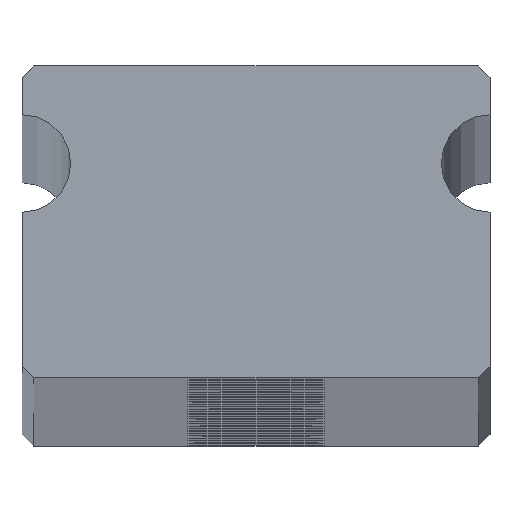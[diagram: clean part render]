
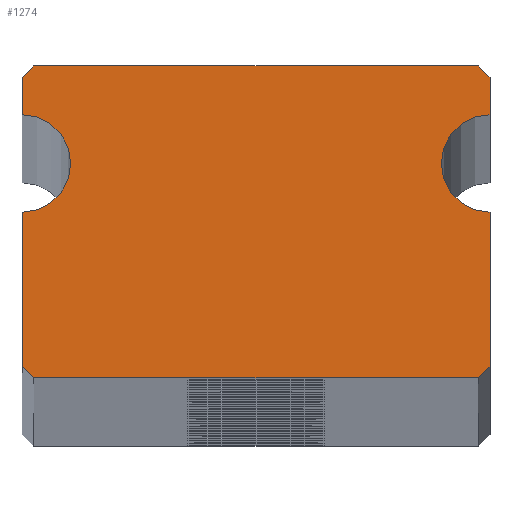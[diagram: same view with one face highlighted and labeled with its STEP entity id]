
A CAD part, top view. The second image highlights one B-rep face of the part: STEP entity #1274.
In plain terms, the highlighted planar face has unit normal (0, 0, 1).
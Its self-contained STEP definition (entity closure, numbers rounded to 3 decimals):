
#15 = EDGE_CURVE ( 'NONE', #1035, #3979, #4612, .T. ) ;
#46 = CARTESIAN_POINT ( 'NONE',  ( -5.139, -3.533, 1000. ) ) ;
#238 = ORIENTED_EDGE ( 'NONE', *, *, #2287, .T. ) ;
#333 = VERTEX_POINT ( 'NONE', #5940 ) ;
#412 = EDGE_CURVE ( 'NONE', #333, #6000, #3584, .T. ) ;
#439 = AXIS2_PLACEMENT_3D ( 'NONE', #4798, #4658, #5661 ) ;
#495 = CIRCLE ( 'NONE', #4250, 1.25 ) ;
#523 = CARTESIAN_POINT ( 'NONE',  ( 6.261, 4.467, 1000. ) ) ;
#568 = VERTEX_POINT ( 'NONE', #4184 ) ;
#609 = LINE ( 'NONE', #46, #5651 ) ;
#644 = ORIENTED_EDGE ( 'NONE', *, *, #3875, .T. ) ;
#815 = CARTESIAN_POINT ( 'NONE',  ( 6.561, -3.233, 1000. ) ) ;
#870 = EDGE_CURVE ( 'NONE', #6000, #1431, #4491, .T. ) ;
#884 = LINE ( 'NONE', #4452, #5227 ) ;
#1025 = CARTESIAN_POINT ( 'NONE',  ( 6.561, 3.217, 1000. ) ) ;
#1035 = VERTEX_POINT ( 'NONE', #3993 ) ;
#1072 = CARTESIAN_POINT ( 'NONE',  ( -5.439, 4.167, 1000. ) ) ;
#1086 = AXIS2_PLACEMENT_3D ( 'NONE', #3281, #4320, #6401 ) ;
#1089 = PLANE ( 'NONE',  #6229 ) ;
#1117 = VECTOR ( 'NONE', #3233, 1000. ) ;
#1246 = EDGE_CURVE ( 'NONE', #2837, #568, #5380, .T. ) ;
#1268 = EDGE_LOOP ( 'NONE', ( #4797, #6572, #238, #3079, #5814, #1287, #6554, #5888, #644, #2930, #4905, #3504, #4918 ) ) ;
#1274 = ADVANCED_FACE ( 'NONE', ( #3649 ), #1089, .T. ) ;
#1277 = VECTOR ( 'NONE', #6028, 1000. ) ;
#1287 = ORIENTED_EDGE ( 'NONE', *, *, #4470, .T. ) ;
#1346 = VECTOR ( 'NONE', #5767, 1000. ) ;
#1399 = EDGE_CURVE ( 'NONE', #3979, #5251, #3988, .T. ) ;
#1431 = VERTEX_POINT ( 'NONE', #2771 ) ;
#1459 = DIRECTION ( 'NONE',  ( -0.707, -0.707, 0. ) ) ;
#1472 = VERTEX_POINT ( 'NONE', #5184 ) ;
#1512 = DIRECTION ( 'NONE',  ( -0.707, 0.707, 0. ) ) ;
#1635 = CARTESIAN_POINT ( 'NONE',  ( -5.439, -3.233, 1000. ) ) ;
#1724 = VECTOR ( 'NONE', #1512, 1000. ) ;
#1813 = EDGE_CURVE ( 'NONE', #1431, #1035, #6017, .T. ) ;
#1836 = CARTESIAN_POINT ( 'NONE',  ( -5.439, 0.717, 1000. ) ) ;
#2141 = LINE ( 'NONE', #2608, #3102 ) ;
#2287 = EDGE_CURVE ( 'NONE', #3464, #5268, #5270, .T. ) ;
#2419 = CARTESIAN_POINT ( 'NONE',  ( 6.561, 1.967, 1000. ) ) ;
#2474 = EDGE_CURVE ( 'NONE', #568, #2763, #495, .T. ) ;
#2608 = CARTESIAN_POINT ( 'NONE',  ( 6.561, 3.217, 1000. ) ) ;
#2636 = DIRECTION ( 'NONE',  ( 1., 0., 0. ) ) ;
#2643 = DIRECTION ( 'NONE',  ( 0., 0., 1. ) ) ;
#2727 = LINE ( 'NONE', #3807, #1117 ) ;
#2763 = VERTEX_POINT ( 'NONE', #1025 ) ;
#2771 = CARTESIAN_POINT ( 'NONE',  ( -5.139, 4.467, 1000. ) ) ;
#2837 = VERTEX_POINT ( 'NONE', #5920 ) ;
#2877 = CARTESIAN_POINT ( 'NONE',  ( -5.439, 3.217, 1000. ) ) ;
#2930 = ORIENTED_EDGE ( 'NONE', *, *, #412, .T. ) ;
#2943 = DIRECTION ( 'NONE',  ( 0., -1., 0. ) ) ;
#3079 = ORIENTED_EDGE ( 'NONE', *, *, #4301, .T. ) ;
#3088 = CARTESIAN_POINT ( 'NONE',  ( 6.561, 4.167, 1000. ) ) ;
#3102 = VECTOR ( 'NONE', #3675, 1000. ) ;
#3233 = DIRECTION ( 'NONE',  ( 0.707, 0.707, 0. ) ) ;
#3281 = CARTESIAN_POINT ( 'NONE',  ( -5.439, 1.967, 1000. ) ) ;
#3306 = LINE ( 'NONE', #815, #3817 ) ;
#3464 = VERTEX_POINT ( 'NONE', #1635 ) ;
#3504 = ORIENTED_EDGE ( 'NONE', *, *, #1813, .T. ) ;
#3584 = LINE ( 'NONE', #3088, #1724 ) ;
#3649 = FACE_OUTER_BOUND ( 'NONE', #1268, .T. ) ;
#3675 = DIRECTION ( 'NONE',  ( 0., 1., 0. ) ) ;
#3807 = CARTESIAN_POINT ( 'NONE',  ( 6.261, -3.533, 1000. ) ) ;
#3817 = VECTOR ( 'NONE', #3849, 1000. ) ;
#3849 = DIRECTION ( 'NONE',  ( 0., 1., 0. ) ) ;
#3875 = EDGE_CURVE ( 'NONE', #2763, #333, #2141, .T. ) ;
#3927 = DIRECTION ( 'NONE',  ( 0., 0., -1. ) ) ;
#3979 = VERTEX_POINT ( 'NONE', #2877 ) ;
#3988 = CIRCLE ( 'NONE', #1086, 1.25 ) ;
#3993 = CARTESIAN_POINT ( 'NONE',  ( -5.439, 4.167, 1000. ) ) ;
#4184 = CARTESIAN_POINT ( 'NONE',  ( 5.311, 1.967, 1000. ) ) ;
#4195 = EDGE_CURVE ( 'NONE', #5251, #3464, #884, .T. ) ;
#4250 = AXIS2_PLACEMENT_3D ( 'NONE', #2419, #3927, #5968 ) ;
#4301 = EDGE_CURVE ( 'NONE', #5268, #5000, #609, .T. ) ;
#4320 = DIRECTION ( 'NONE',  ( 0., 0., -1. ) ) ;
#4398 = CARTESIAN_POINT ( 'NONE',  ( 6.261, 4.467, 1000. ) ) ;
#4415 = CARTESIAN_POINT ( 'NONE',  ( -5.139, -3.533, 1000. ) ) ;
#4452 = CARTESIAN_POINT ( 'NONE',  ( -5.439, 0.717, 1000. ) ) ;
#4470 = EDGE_CURVE ( 'NONE', #1472, #2837, #3306, .T. ) ;
#4491 = LINE ( 'NONE', #523, #1277 ) ;
#4586 = VECTOR ( 'NONE', #1459, 1000. ) ;
#4612 = LINE ( 'NONE', #1072, #6209 ) ;
#4658 = DIRECTION ( 'NONE',  ( 0., 0., -1. ) ) ;
#4690 = DIRECTION ( 'NONE',  ( 1., 0., 0. ) ) ;
#4696 = CARTESIAN_POINT ( 'NONE',  ( -5.439, -3.233, 1000. ) ) ;
#4797 = ORIENTED_EDGE ( 'NONE', *, *, #1399, .T. ) ;
#4798 = CARTESIAN_POINT ( 'NONE',  ( 6.561, 1.967, 1000. ) ) ;
#4905 = ORIENTED_EDGE ( 'NONE', *, *, #870, .T. ) ;
#4918 = ORIENTED_EDGE ( 'NONE', *, *, #15, .T. ) ;
#5000 = VERTEX_POINT ( 'NONE', #5010 ) ;
#5010 = CARTESIAN_POINT ( 'NONE',  ( 6.261, -3.533, 1000. ) ) ;
#5184 = CARTESIAN_POINT ( 'NONE',  ( 6.561, -3.233, 1000. ) ) ;
#5192 = CARTESIAN_POINT ( 'NONE',  ( -5.439, 1.967, 1000. ) ) ;
#5227 = VECTOR ( 'NONE', #2943, 1000. ) ;
#5251 = VERTEX_POINT ( 'NONE', #1836 ) ;
#5268 = VERTEX_POINT ( 'NONE', #4415 ) ;
#5270 = LINE ( 'NONE', #4696, #1346 ) ;
#5380 = CIRCLE ( 'NONE', #439, 1.25 ) ;
#5499 = EDGE_CURVE ( 'NONE', #5000, #1472, #2727, .T. ) ;
#5515 = CARTESIAN_POINT ( 'NONE',  ( -5.139, 4.467, 1000. ) ) ;
#5644 = DIRECTION ( 'NONE',  ( 0., -1., 0. ) ) ;
#5651 = VECTOR ( 'NONE', #2636, 1000. ) ;
#5661 = DIRECTION ( 'NONE',  ( 1., 0., 0. ) ) ;
#5767 = DIRECTION ( 'NONE',  ( 0.707, -0.707, 0. ) ) ;
#5814 = ORIENTED_EDGE ( 'NONE', *, *, #5499, .T. ) ;
#5888 = ORIENTED_EDGE ( 'NONE', *, *, #2474, .T. ) ;
#5920 = CARTESIAN_POINT ( 'NONE',  ( 6.561, 0.717, 1000. ) ) ;
#5940 = CARTESIAN_POINT ( 'NONE',  ( 6.561, 4.167, 1000. ) ) ;
#5968 = DIRECTION ( 'NONE',  ( 1., 0., 0. ) ) ;
#6000 = VERTEX_POINT ( 'NONE', #4398 ) ;
#6017 = LINE ( 'NONE', #5515, #4586 ) ;
#6028 = DIRECTION ( 'NONE',  ( -1., 0., 0. ) ) ;
#6209 = VECTOR ( 'NONE', #5644, 1000. ) ;
#6229 = AXIS2_PLACEMENT_3D ( 'NONE', #5192, #2643, #4690 ) ;
#6401 = DIRECTION ( 'NONE',  ( 1., 0., 0. ) ) ;
#6554 = ORIENTED_EDGE ( 'NONE', *, *, #1246, .T. ) ;
#6572 = ORIENTED_EDGE ( 'NONE', *, *, #4195, .T. ) ;
